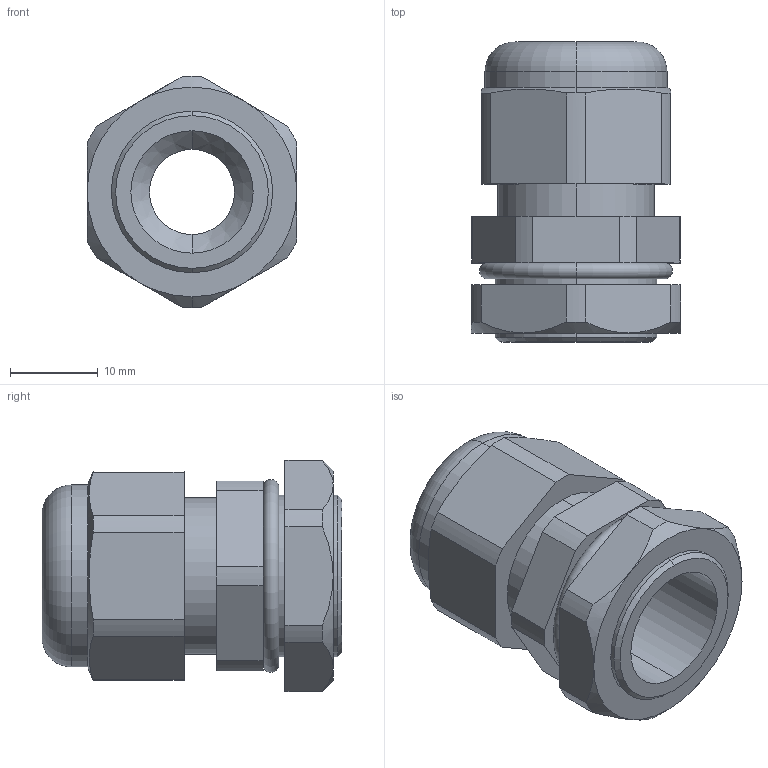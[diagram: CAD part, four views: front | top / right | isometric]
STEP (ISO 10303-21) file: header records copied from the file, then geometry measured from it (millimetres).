
FILE_DESCRIPTION (( 'STEP AP203' ), '1' );
FILE_NAME ('CH-PG11.STEP', '2018-02-07T14:39:46', ( '' ), ( '' ), 'SwSTEP 2.0', 'SolidWorks 2012', '' );
FILE_SCHEMA (( 'CONFIG_CONTROL_DESIGN' ));
Length unit declared in the file: millimetre
Products named in the file (1): CH-PG11
Bounding box: 23.9 x 34.2 x 26.39 mm (x, y, z)
Volume: 8751.2 mm3; surface area: 5036.9 mm2
Topology: 1 solids, 1 shells, 78 faces, 189 edges, 118 vertices
Faces by surface type: cylinder 34, plane 25, cone 15, torus 4
Entity records: 2466 total; most frequent: CARTESIAN_POINT 520, DIRECTION 415, ORIENTED_EDGE 378, EDGE_CURVE 189, AXIS2_PLACEMENT_3D 165, VERTEX_POINT 118, CIRCLE 86, LINE 85
